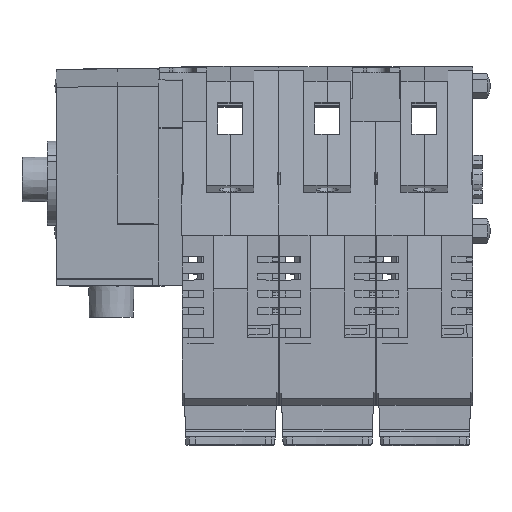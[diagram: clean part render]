
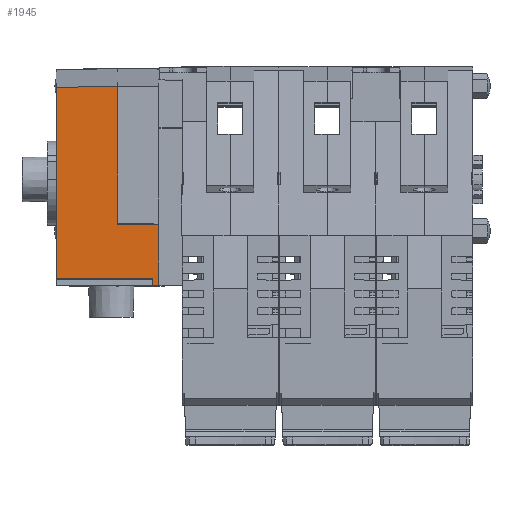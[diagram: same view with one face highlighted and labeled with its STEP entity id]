
A CAD part, top view. The second image highlights one B-rep face of the part: STEP entity #1945.
In plain terms, the highlighted planar face has unit normal (-0.009, 0.001, 1).
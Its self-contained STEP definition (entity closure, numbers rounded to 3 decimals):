
#1945=ADVANCED_FACE('',(#7131),#4787,.T.);
#4787=PLANE('',#60311);
#7131=FACE_OUTER_BOUND('',#9927,.T.);
#9927=EDGE_LOOP('',(#29360,#29361,#29362,#29363,#29364,#29365,#29366,#29367,
#29368));
#13527=LINE('',#80289,#20852);
#13542=LINE('',#80316,#20867);
#13695=LINE('',#80721,#21020);
#13905=LINE('',#81397,#21230);
#13906=LINE('',#81399,#21231);
#13907=LINE('',#81400,#21232);
#13908=LINE('',#81402,#21233);
#13909=LINE('',#81404,#21234);
#13910=LINE('',#81405,#21235);
#20852=VECTOR('',#64590,1.);
#20867=VECTOR('',#64619,1.);
#21020=VECTOR('',#64878,1.);
#21230=VECTOR('',#65266,1.);
#21231=VECTOR('',#65267,1.);
#21232=VECTOR('',#65268,1.);
#21233=VECTOR('',#65269,1.);
#21234=VECTOR('',#65270,1.);
#21235=VECTOR('',#65271,1.);
#29360=ORIENTED_EDGE('',*,*,#51827,.T.);
#29361=ORIENTED_EDGE('',*,*,#51828,.T.);
#29362=ORIENTED_EDGE('',*,*,#51354,.T.);
#29363=ORIENTED_EDGE('',*,*,#51829,.F.);
#29364=ORIENTED_EDGE('',*,*,#51830,.T.);
#29365=ORIENTED_EDGE('',*,*,#51831,.F.);
#29366=ORIENTED_EDGE('',*,*,#51369,.F.);
#29367=ORIENTED_EDGE('',*,*,#51832,.T.);
#29368=ORIENTED_EDGE('',*,*,#51545,.F.);
#45242=VERTEX_POINT('',#79125);
#45541=VERTEX_POINT('',#80288);
#45542=VERTEX_POINT('',#80290);
#45546=VERTEX_POINT('',#80315);
#45644=VERTEX_POINT('',#80644);
#45678=VERTEX_POINT('',#80720);
#45909=VERTEX_POINT('',#81398);
#45910=VERTEX_POINT('',#81401);
#45911=VERTEX_POINT('',#81403);
#51354=EDGE_CURVE('',#45542,#45541,#13527,.T.);
#51369=EDGE_CURVE('',#45546,#45242,#13542,.T.);
#51545=EDGE_CURVE('',#45678,#45644,#13695,.T.);
#51827=EDGE_CURVE('',#45678,#45909,#13905,.T.);
#51828=EDGE_CURVE('',#45909,#45542,#13906,.T.);
#51829=EDGE_CURVE('',#45910,#45541,#13907,.T.);
#51830=EDGE_CURVE('',#45910,#45911,#13908,.T.);
#51831=EDGE_CURVE('',#45242,#45911,#13909,.T.);
#51832=EDGE_CURVE('',#45546,#45644,#13910,.T.);
#60311=AXIS2_PLACEMENT_3D('',#81406,#65272,#65273);
#64590=DIRECTION('',(1.,0.009,0.009));
#64619=DIRECTION('',(0.,-1.,0.001));
#64878=DIRECTION('',(0.,1.,-0.001));
#65266=DIRECTION('',(1.,0.002,0.009));
#65267=DIRECTION('',(0.,-1.,0.001));
#65268=DIRECTION('',(0.,-1.,0.001));
#65269=DIRECTION('',(-1.,0.009,-0.009));
#65270=DIRECTION('',(0.,-1.,0.001));
#65271=DIRECTION('',(-1.,-0.016,-0.009));
#65272=DIRECTION('',(-0.009,0.001,1.));
#65273=DIRECTION('',(-1.,0.,-0.009));
#79125=CARTESIAN_POINT('',(-329.19,18.524,38.481));
#80288=CARTESIAN_POINT('',(-315.99,-1.245,38.614));
#80289=CARTESIAN_POINT('',(-328.652,-1.355,38.504));
#80290=CARTESIAN_POINT('',(-317.99,-1.262,38.596));
#80315=CARTESIAN_POINT('',(-329.19,62.237,38.441));
#80316=CARTESIAN_POINT('',(-329.19,60.313,38.443));
#80644=CARTESIAN_POINT('',(-348.69,61.923,38.272));
#80720=CARTESIAN_POINT('',(-348.69,0.921,38.327));
#80721=CARTESIAN_POINT('',(-348.69,60.313,38.273));
#81397=CARTESIAN_POINT('',(-329.089,0.955,38.498));
#81398=CARTESIAN_POINT('',(-317.99,0.974,38.594));
#81399=CARTESIAN_POINT('',(-317.99,5.64,38.59));
#81400=CARTESIAN_POINT('',(-315.99,60.313,38.558));
#81401=CARTESIAN_POINT('',(-315.99,18.148,38.596));
#81402=CARTESIAN_POINT('',(-346.968,18.418,38.326));
#81403=CARTESIAN_POINT('',(-329.19,18.263,38.481));
#81404=CARTESIAN_POINT('',(-329.19,60.14,38.443));
#81405=CARTESIAN_POINT('',(-329.221,62.236,38.441));
#81406=CARTESIAN_POINT('',(-329.19,60.313,38.443));
